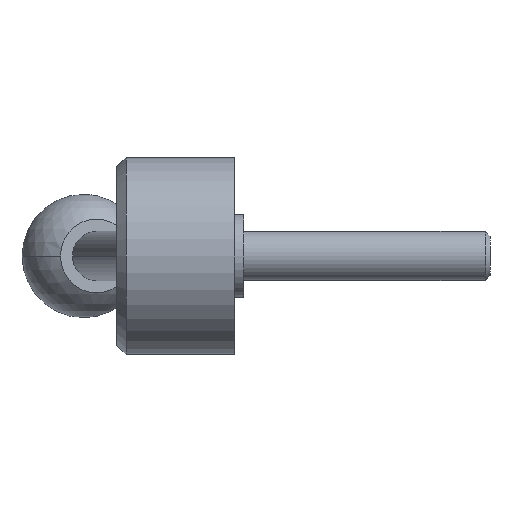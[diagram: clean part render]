
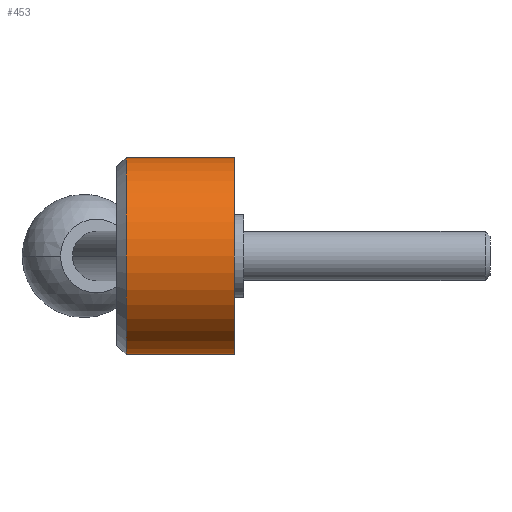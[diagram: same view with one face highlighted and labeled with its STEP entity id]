
A CAD part, left-side view. The second image highlights one B-rep face of the part: STEP entity #453.
In plain terms, the highlighted cylindrical face has radius 16 mm (diameter 32 mm), a partial arc.
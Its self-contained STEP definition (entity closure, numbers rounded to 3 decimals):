
#7 = DIRECTION ( 'NONE',  ( 0., -1., 0. ) ) ;
#21 = LINE ( 'NONE', #135, #175 ) ;
#49 = CARTESIAN_POINT ( 'NONE',  ( 0., 0., 16. ) ) ;
#135 = CARTESIAN_POINT ( 'NONE',  ( 0., 0., 16. ) ) ;
#172 = VERTEX_POINT ( 'NONE', #436 ) ;
#175 = VECTOR ( 'NONE', #402, 1000. ) ;
#182 = VERTEX_POINT ( 'NONE', #587 ) ;
#198 = ORIENTED_EDGE ( 'NONE', *, *, #548, .F. ) ;
#213 = ORIENTED_EDGE ( 'NONE', *, *, #443, .T. ) ;
#217 = DIRECTION ( 'NONE',  ( 0., 0., -1. ) ) ;
#222 = CARTESIAN_POINT ( 'NONE',  ( 0., 17.6, -16. ) ) ;
#226 = CIRCLE ( 'NONE', #397, 16. ) ;
#229 = DIRECTION ( 'NONE',  ( 0., 0., -1. ) ) ;
#250 = VERTEX_POINT ( 'NONE', #49 ) ;
#260 = VECTOR ( 'NONE', #848, 1000. ) ;
#283 = CARTESIAN_POINT ( 'NONE',  ( 0., 17.6, 0. ) ) ;
#314 = ORIENTED_EDGE ( 'NONE', *, *, #613, .T. ) ;
#345 = DIRECTION ( 'NONE',  ( 0., -1., 0. ) ) ;
#397 = AXIS2_PLACEMENT_3D ( 'NONE', #628, #7, #229 ) ;
#402 = DIRECTION ( 'NONE',  ( 0., -1., 0. ) ) ;
#414 = ORIENTED_EDGE ( 'NONE', *, *, #647, .F. ) ;
#423 = AXIS2_PLACEMENT_3D ( 'NONE', #283, #345, #544 ) ;
#429 = CARTESIAN_POINT ( 'NONE',  ( 0., 0., 0. ) ) ;
#436 = CARTESIAN_POINT ( 'NONE',  ( 0., 17.6, 16. ) ) ;
#443 = EDGE_CURVE ( 'NONE', #172, #813, #869, .T. ) ;
#453 = ADVANCED_FACE ( 'NONE', ( #754 ), #635, .T. ) ;
#498 = DIRECTION ( 'NONE',  ( 0., -1., 0. ) ) ;
#502 = CARTESIAN_POINT ( 'NONE',  ( 0., 0., -16. ) ) ;
#506 = LINE ( 'NONE', #502, #260 ) ;
#544 = DIRECTION ( 'NONE',  ( 0., 0., 1. ) ) ;
#548 = EDGE_CURVE ( 'NONE', #250, #182, #226, .T. ) ;
#587 = CARTESIAN_POINT ( 'NONE',  ( 0., 0., -16. ) ) ;
#613 = EDGE_CURVE ( 'NONE', #813, #182, #506, .T. ) ;
#628 = CARTESIAN_POINT ( 'NONE',  ( 0., 0., 0. ) ) ;
#635 = CYLINDRICAL_SURFACE ( 'NONE', #852, 16. ) ;
#647 = EDGE_CURVE ( 'NONE', #172, #250, #21, .T. ) ;
#674 = EDGE_LOOP ( 'NONE', ( #414, #213, #314, #198 ) ) ;
#754 = FACE_OUTER_BOUND ( 'NONE', #674, .T. ) ;
#813 = VERTEX_POINT ( 'NONE', #222 ) ;
#848 = DIRECTION ( 'NONE',  ( 0., -1., 0. ) ) ;
#852 = AXIS2_PLACEMENT_3D ( 'NONE', #429, #498, #217 ) ;
#869 = CIRCLE ( 'NONE', #423, 16. ) ;
